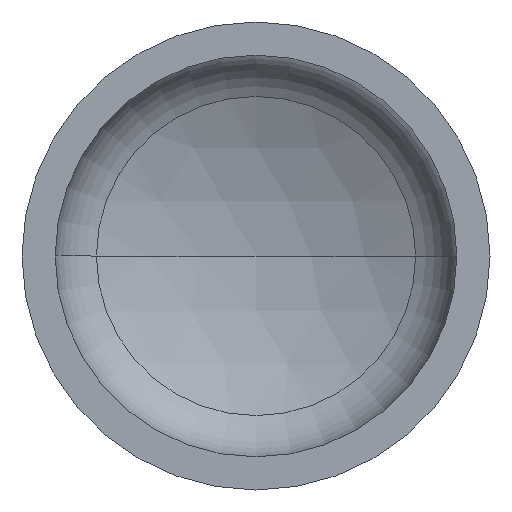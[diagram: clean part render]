
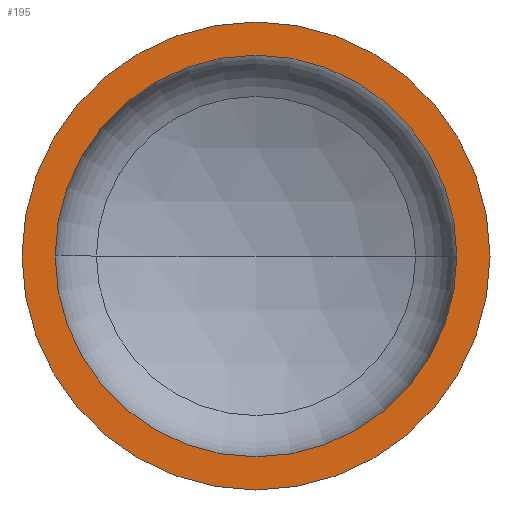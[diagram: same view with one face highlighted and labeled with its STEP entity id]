
A CAD part, front view. The second image highlights one B-rep face of the part: STEP entity #195.
In plain terms, the highlighted planar face has unit normal (0, -1, 0).
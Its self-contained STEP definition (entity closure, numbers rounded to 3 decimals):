
#30 = EDGE_LOOP ( 'NONE', ( #118, #158 ) ) ;
#45 = CARTESIAN_POINT ( 'NONE',  ( 0., 0., 0. ) ) ;
#46 = AXIS2_PLACEMENT_3D ( 'NONE', #45, #401, #284 ) ;
#58 = AXIS2_PLACEMENT_3D ( 'NONE', #390, #393, #267 ) ;
#61 = ORIENTED_EDGE ( 'NONE', *, *, #405, .F. ) ;
#62 = VERTEX_POINT ( 'NONE', #275 ) ;
#83 = AXIS2_PLACEMENT_3D ( 'NONE', #397, #301, #193 ) ;
#85 = VERTEX_POINT ( 'NONE', #270 ) ;
#86 = AXIS2_PLACEMENT_3D ( 'NONE', #342, #186, #325 ) ;
#117 = VERTEX_POINT ( 'NONE', #374 ) ;
#118 = ORIENTED_EDGE ( 'NONE', *, *, #346, .T. ) ;
#125 = EDGE_CURVE ( 'NONE', #132, #85, #256, .T. ) ;
#126 = EDGE_CURVE ( 'NONE', #117, #62, #378, .T. ) ;
#132 = VERTEX_POINT ( 'NONE', #336 ) ;
#158 = ORIENTED_EDGE ( 'NONE', *, *, #125, .T. ) ;
#160 = EDGE_LOOP ( 'NONE', ( #384, #61 ) ) ;
#162 = DIRECTION ( 'NONE',  ( 1., 0., 0. ) ) ;
#168 = DIRECTION ( 'NONE',  ( 0., -1., 0. ) ) ;
#169 = CARTESIAN_POINT ( 'NONE',  ( 0., 0., 0. ) ) ;
#186 = DIRECTION ( 'NONE',  ( 0., -1., 0. ) ) ;
#193 = DIRECTION ( 'NONE',  ( 1., 0., 0. ) ) ;
#195 = ADVANCED_FACE ( 'NONE', ( #237, #358 ), #373, .F. ) ;
#208 = CIRCLE ( 'NONE', #46, 650. ) ;
#237 = FACE_BOUND ( 'NONE', #160, .T. ) ;
#256 = CIRCLE ( 'NONE', #86, 650. ) ;
#267 = DIRECTION ( 'NONE',  ( -1., 0., 0. ) ) ;
#270 = CARTESIAN_POINT ( 'NONE',  ( 650., 0., 0. ) ) ;
#275 = CARTESIAN_POINT ( 'NONE',  ( -558., 0., 0. ) ) ;
#284 = DIRECTION ( 'NONE',  ( 1., 0., 0. ) ) ;
#301 = DIRECTION ( 'NONE',  ( 0., -1., 0. ) ) ;
#302 = CIRCLE ( 'NONE', #303, 558. ) ;
#303 = AXIS2_PLACEMENT_3D ( 'NONE', #169, #168, #162 ) ;
#325 = DIRECTION ( 'NONE',  ( 1., 0., 0. ) ) ;
#336 = CARTESIAN_POINT ( 'NONE',  ( -650., 0., 0. ) ) ;
#342 = CARTESIAN_POINT ( 'NONE',  ( 0., 0., 0. ) ) ;
#346 = EDGE_CURVE ( 'NONE', #85, #132, #208, .T. ) ;
#358 = FACE_OUTER_BOUND ( 'NONE', #30, .T. ) ;
#373 = PLANE ( 'NONE',  #58 ) ;
#374 = CARTESIAN_POINT ( 'NONE',  ( 558., 0., 0. ) ) ;
#378 = CIRCLE ( 'NONE', #83, 558. ) ;
#384 = ORIENTED_EDGE ( 'NONE', *, *, #126, .F. ) ;
#390 = CARTESIAN_POINT ( 'NONE',  ( -650., 0., 0. ) ) ;
#393 = DIRECTION ( 'NONE',  ( 0., 1., 0. ) ) ;
#397 = CARTESIAN_POINT ( 'NONE',  ( 0., 0., 0. ) ) ;
#401 = DIRECTION ( 'NONE',  ( 0., -1., 0. ) ) ;
#405 = EDGE_CURVE ( 'NONE', #62, #117, #302, .T. ) ;
